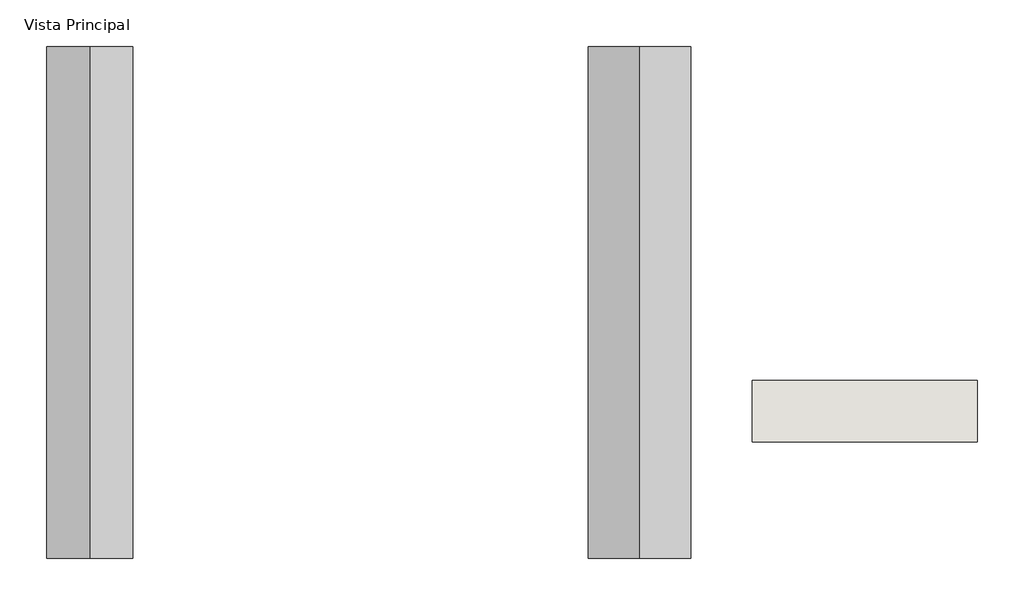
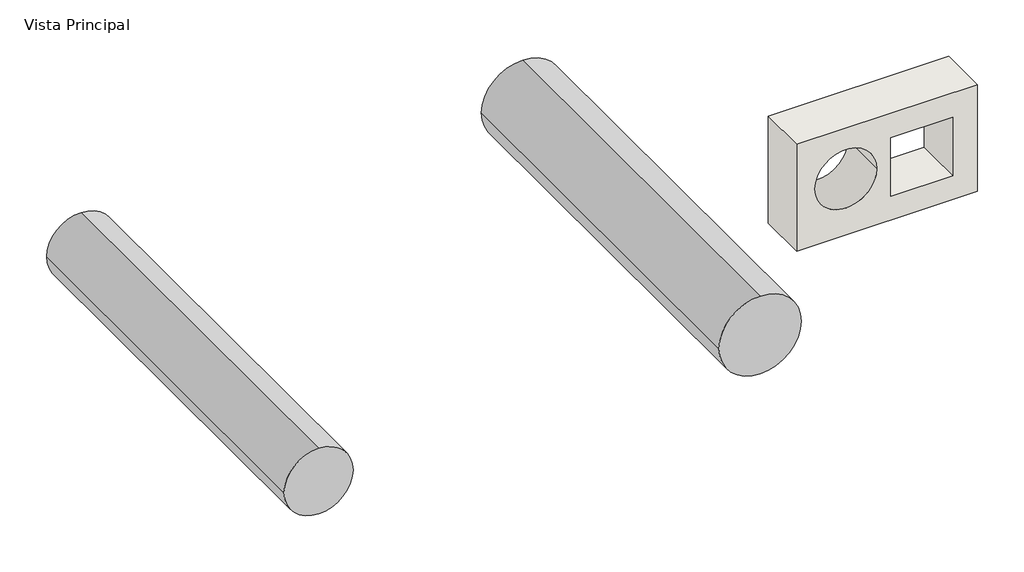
# One storey: 2 pipe segments, 1 wall.
"""IFC4 building model written with IfcOpenShell, lengths in millimetres."""

from ifc_helpers import new_model, si_unit, point, frame, frame_2d, origin, place, context, project, spatial, polyline, circle_curve, trimmed, segment, composite_curve, outline, extrude, element, save

model = new_model("IFC4")

# Units and contexts
model_context = context("Model", 3, world=origin())
ifc_project = project(units=[si_unit("LENGTHUNIT", "METRE", prefix="MILLI")], contexts=[model_context])

# Site, building, storey
site = spatial("IfcSite", under=ifc_project)
building = spatial("IfcBuilding", under=site)
storey = spatial("IfcBuildingStorey", under=building, Name="Vista Principal", Elevation=0.0)

# Pipe segments
placement = place(None, origin())
element("IfcPipeSegment", 1, ObjectType="AmancoWavin_Biaxial_Sistema Métrico (6 mts)", at=placement, inside=storey, context=model_context, shape_type="SweptSolid", body=[
    extrude(outline(composite_curve([segment(trimmed(circle_curve(frame_2d((0.0, 1777.2550143)), 100.15), [point((0.0, 1677.1050143))], [point((-100.15, 1777.2550143))], False, "CARTESIAN"), True, "CONTINUOUS"), segment(trimmed(circle_curve(frame_2d((0.0, 1777.2550143)), 100.15), [point((-100.15, 1777.2550143))], [point((0.0, 1877.4050143))], False, "CARTESIAN"), True, "CONTINUOUS"), segment(trimmed(circle_curve(frame_2d((0.0, 1777.2550143)), 100.15), [point((0.0, 1877.4050143))], [point((100.15, 1777.2550143))], False, "CARTESIAN"), True, "CONTINUOUS"), segment(trimmed(circle_curve(frame_2d((0.0, 1777.2550143)), 100.15), [point((100.15, 1777.2550143))], [point((0.0, 1677.1050143))], False, "CARTESIAN"), True, "CONTINUOUS")], self_intersect=False)), frame((0.0, 462.4339138, 0.0), z_axis=(0.0, 1.0, 0.0), x_axis=(0.0, 0.0, 1.0)), (0.0, 0.0, 1.0), 1000.0),
])
element("IfcPipeSegment", 2, ObjectType="AmancoWavin_Biaxial_Sistema Inglés (6 mts)", at=placement, inside=storey, context=model_context, shape_type="SweptSolid", body=[
    extrude(outline(composite_curve([segment(trimmed(circle_curve(frame_2d((0.0, 703.3312225)), 84.14), [point((0.0, 619.1912225))], [point((-84.14, 703.3312225))], False, "CARTESIAN"), True, "CONTINUOUS"), segment(trimmed(circle_curve(frame_2d((0.0, 703.3312225)), 84.14), [point((-84.14, 703.3312225))], [point((0.0, 787.4712225))], False, "CARTESIAN"), True, "CONTINUOUS"), segment(trimmed(circle_curve(frame_2d((0.0, 703.3312225)), 84.14), [point((0.0, 787.4712225))], [point((84.14, 703.3312225))], False, "CARTESIAN"), True, "CONTINUOUS"), segment(trimmed(circle_curve(frame_2d((0.0, 703.3312225)), 84.14), [point((84.14, 703.3312225))], [point((0.0, 619.1912225))], False, "CARTESIAN"), True, "CONTINUOUS")], self_intersect=False)), frame((0.0, 462.4339138, 0.0), z_axis=(0.0, 1.0, 0.0), x_axis=(0.0, 0.0, 1.0)), (0.0, 0.0, 1.0), 1000.0),
])

# Wall
element("IfcWall", 3, ObjectType="Wall 1", at=placement, inside=storey, context=model_context, shape_type="SweptSolid", body=[
    extrude(outline(polyline([(0.0, 1997.4050143), (0.0, 2437.4050143), (274.7987763, 2437.4050143), (274.7987763, 1997.4050143), (0.0, 1997.4050143)]), holes=[polyline([(211.4896004, 2227.1154736), (211.4896004, 2377.1154736), (61.4896004, 2377.1154736), (61.4896004, 2227.1154736), (211.4896004, 2227.1154736)]), composite_curve([segment(trimmed(circle_curve(frame_2d((144.4282969, 2117.1154736)), 75.0), [point((144.4282969, 2192.1154736))], [point((144.4282969, 2042.1154736))], True, "CARTESIAN"), True, "CONTINUOUS"), segment(trimmed(circle_curve(frame_2d((144.4282969, 2117.1154736)), 75.0), [point((144.4282969, 2042.1154736))], [point((144.4282969, 2192.1154736))], True, "CARTESIAN"), True, "CONTINUOUS")], self_intersect=False)]), frame((0.0, 689.9288708, 0.0), z_axis=(0.0, 1.0, 0.0), x_axis=(0.0, 0.0, 1.0)), (0.0, 0.0, 1.0), 120.0),
])

save(model, "model.ifc")
